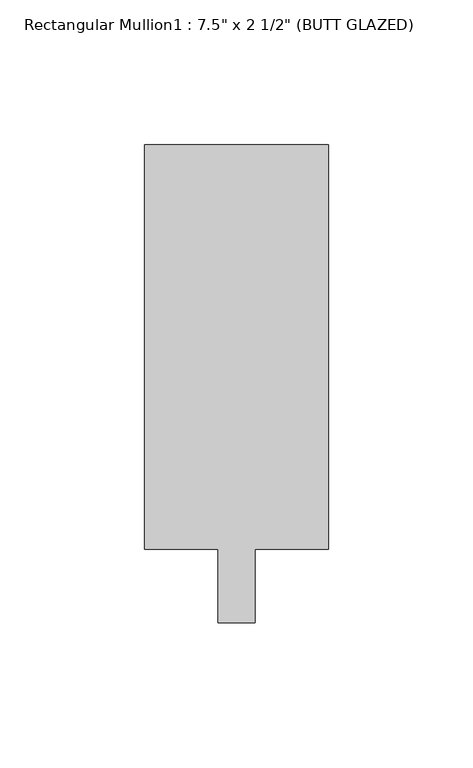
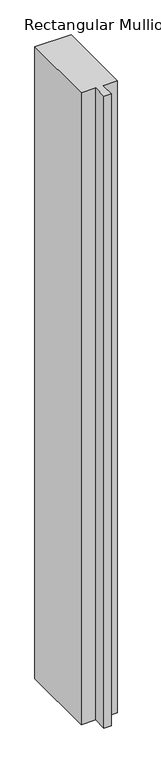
"""IFC4 building model written with IfcOpenShell, lengths in millimetres: member geometry."""

from ifc_helpers import new_model, si_unit, frame, origin, place, context, project, spatial, polyline, outline, extrude, source, transform, mapped, element, save


def member_2573111b(model_context):
    return source(origin(), model_context, "Body", "SweptSolid", [
        extrude(outline(polyline([(31.75, 165.1), (31.75, 25.4), (6.35, 25.4), (6.35, 0.0), (-6.35, 0.0), (-6.35, 25.4), (-31.75, 25.4), (-31.75, 165.1), (31.75, 165.1)])), frame((0.0, 0.0, -1168.4), z_axis=(0.0, 0.0, 1.0), x_axis=(1.0, 0.0, 0.0)), (0.0, 0.0, 1.0), 1168.4),
    ])


if __name__ == "__main__":
    model = new_model("IFC4")
    model_context = context("Model", 3, world=origin())
    ifc_project = project(units=[si_unit("LENGTHUNIT", "METRE", prefix="MILLI")], contexts=[model_context])
    site = spatial("IfcSite", under=ifc_project)
    building = spatial("IfcBuilding", under=site)
    placement = place(None, origin())
    member_shape = member_2573111b(model_context)
    element("IfcMember", 1, ObjectType="Rectangular Mullion1 : 7.5\" x 2 1/2\" (BUTT GLAZED)", at=placement, inside=building, context=model_context, shape_type="MappedRepresentation", body=[
        mapped(member_shape, transform((0.0, 0.0, 0.0), x_axis=(1.0, 0.0, 0.0), y_axis=(0.0, 1.0, 0.0), z_axis=(0.0, 0.0, 1.0))),
    ])
    save(model, "model.ifc")
